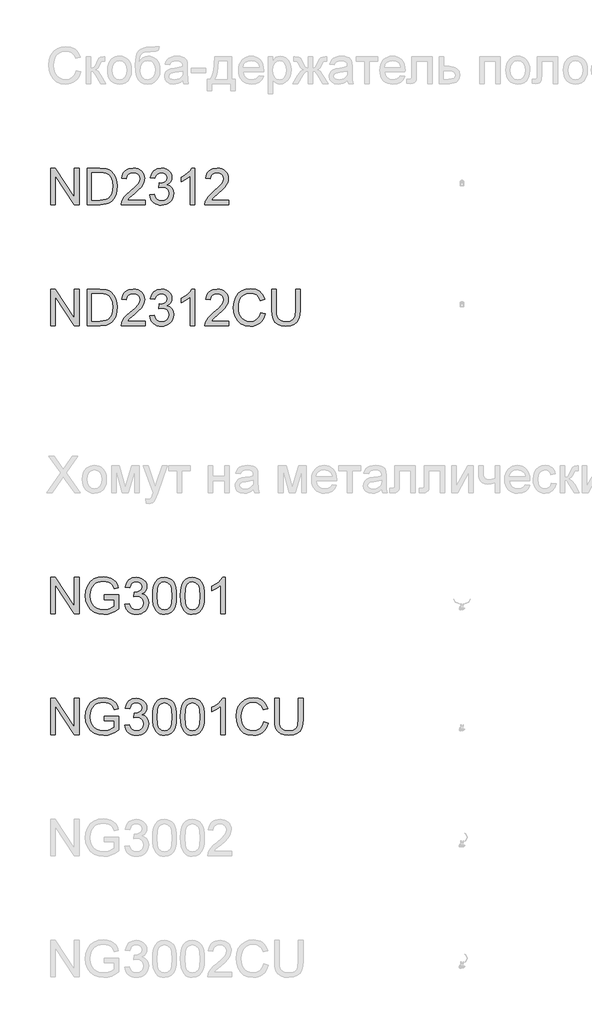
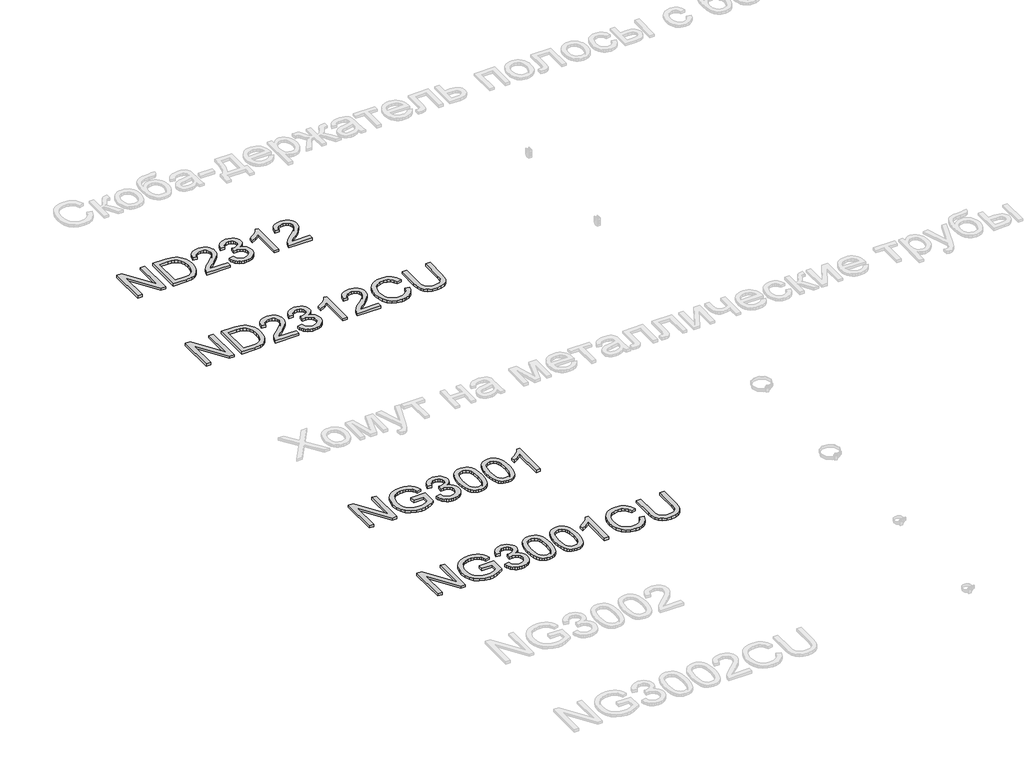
# One storey, part 104 of 124: 4 proxies.
"""IFC4 building model written with IfcOpenShell, lengths in millimetres."""

from ifc_helpers import new_model, si_unit, origin, origin_with_axes, place, context, project, spatial, polyline, outline, extrude, element, save

model = new_model("IFC4")

# Units and contexts
model_context = context("Model", 3, world=origin())
ifc_project = project(units=[si_unit("LENGTHUNIT", "METRE", prefix="MILLI")], contexts=[model_context])

# Site, building, storey
site = spatial("IfcSite", under=ifc_project)
building = spatial("IfcBuilding", under=site)
storey = spatial("IfcBuildingStorey", under=building, Name="Этаж 01", Elevation=0.0)

# Proxies
placement = place(None, origin())
element("IfcBuildingElementProxy", 1, Name="300", ObjectType="300", at=placement, inside=storey, context=model_context, shape_type="SweptSolid", body=[
    extrude(outline(polyline([(34161.4897718, -25050.5404686), (34161.4897718, -24749.1715382), (34201.8096385, -24749.1715382), (34359.2631324, -24987.9269531), (34359.2631324, -24749.1715382), (34396.9342487, -24749.1715382), (34396.9342487, -25050.5404686), (34356.6143821, -25050.5404686), (34199.1608881, -24811.7114774), (34199.1608881, -25050.5404686), (34161.4897718, -25050.5404686)])), origin_with_axes(), (0.0, 0.0, 1.0), 20.0),
    extrude(outline(polyline([(34462.8587023, -25050.5404686), (34462.8587023, -24749.1715382), (34566.8221541, -24749.1715382), (34620.6065018, -24753.5125457), (34644.6291961, -24761.8818611), (34664.899494, -24775.0704306), (34685.7400091, -24798.0262671), (34700.5840476, -24826.57391), (34709.4683977, -24860.1615361), (34712.4298478, -24898.2373226), (34710.4248909, -24930.5833471), (34704.4100203, -24959.0482164), (34695.2497586, -24983.2824429), (34683.8086286, -25002.9365385), (34670.6384532, -25018.4519616), (34656.2910553, -25030.2701707), (34639.819139, -25039.0349592), (34620.275408, -25045.3901207), (34571.8253492, -25050.5404686), (34462.8587023, -25050.5404686)]), holes=[polyline([(34500.5298186, -25012.8693523), (34567.1900361, -25012.8693523), (34594.7627916, -25011.508189), (34615.6768831, -25007.4246988), (34631.4590207, -25000.8580052), (34643.6359147, -24992.0472314), (34656.7233167, -24975.740862), (34666.554963, -24954.6336325), (34672.7077894, -24928.6335725), (34674.7587315, -24897.6487114), (34670.7396207, -24856.5930808), (34658.6822883, -24826.2796044), (34640.8676027, -24805.4574835), (34619.5764322, -24792.8759192), (34597.9081827, -24788.3509707), (34566.1599665, -24786.8426545), (34500.5298186, -24786.8426545), (34500.5298186, -25012.8693523)])]), origin_with_axes(), (0.0, 0.0, 1.0), 20.0),
    extrude(outline(polyline([(34943.1654352, -25012.8693523), (34943.1654352, -25050.5404686), (34745.3920746, -25050.5404686), (34749.4387765, -25024.5679998), (34758.7277969, -25004.2701107), (34772.3210366, -24984.5792269), (34791.9843293, -24963.9686381), (34819.4835084, -24940.9116341), (34860.1344689, -24904.8040162), (34884.5250452, -24878.1509657), (34896.7203333, -24856.5195044), (34900.7854293, -24835.4766543), (34896.9502595, -24816.613505), (34885.4447501, -24800.9325349), (34867.7588232, -24790.3651246), (34845.3824009, -24786.8426545), (34821.8839384, -24790.2823512), (34803.6277944, -24800.6014411), (34791.8463735, -24816.990584), (34787.7720804, -24838.6404394), (34750.1009641, -24833.9315499), (34759.2336346, -24797.4928383), (34767.7799932, -24782.9569009), (34778.9797007, -24770.8765759), (34792.5752397, -24761.3806219), (34808.3090928, -24754.5977976), (34846.1917413, -24749.1715382), (34866.381565, -24750.6798544), (34884.3503012, -24755.2048029), (34900.0979499, -24762.7463838), (34913.624511, -24773.3045971), (34924.4885261, -24786.0976935), (34932.248537, -24800.3439237), (34936.9045435, -24816.0432879), (34938.4565456, -24833.1957859), (34936.7826826, -24851.2128066), (34931.7610933, -24868.9171276), (34922.849152, -24886.9249513), (34909.5042326, -24905.8524799), (34888.2314563, -24928.4496315), (34855.5359439, -24957.4663239), (34812.1994449, -24993.7027004), (34795.2032967, -25012.8693523), (34943.1654352, -25012.8693523)])), origin_with_axes(), (0.0, 0.0, 1.0), 20.0),
    extrude(outline(polyline([(34980.8365515, -24970.4893465), (35018.5076678, -24965.7804569), (35026.9413625, -24989.4536633), (35039.2930005, -25005.438136), (35056.169587, -25014.5432154), (35078.1781274, -25017.5782419), (35104.0034435, -25013.4027812), (35123.9426476, -25000.8763993), (35136.6897587, -24982.1879939), (35140.9387958, -24959.526463), (35136.7265469, -24938.0145634), (35124.0898004, -24920.5677597), (35104.9599367, -24909.007068), (35081.2683362, -24905.1535041), (35054.8544089, -24909.2737825), (35059.0482637, -24871.6026662), (35065.0815284, -24872.0441246), (35087.6510888, -24869.3401919), (35107.8294162, -24861.2283939), (35122.0664494, -24847.5063955), (35126.8121272, -24827.9718616), (35123.3724305, -24811.7022803), (35113.0533406, -24798.5045137), (35097.3079912, -24789.7581193), (35077.5895162, -24786.8426545), (35057.8342531, -24789.7857105), (35041.6842335, -24798.6148783), (35029.8936155, -24813.3301581), (35023.2165573, -24833.9315499), (34985.545441, -24829.2226603), (34996.6370832, -24795.3959109), (35016.3739522, -24770.1408119), (35043.3764907, -24754.4138566), (35076.265141, -24749.1715382), (35099.9475445, -24751.7559092), (35121.6985674, -24759.5090223), (35140.0374849, -24771.7410986), (35153.4835718, -24787.7623595), (35161.7333256, -24806.2208386), (35164.4832435, -24825.7645696), (35161.8712813, -24843.9747283), (35154.0353948, -24860.4926299), (35141.0859486, -24874.5641162), (35123.1333072, -24885.4350292), (35146.7145431, -24894.9631729), (35164.1889379, -24911.1867689), (35175.0046685, -24933.2229004), (35178.6099121, -24960.1886506), (35176.8072903, -24979.3001203), (35171.399425, -24996.9032737), (35162.3863161, -25012.998111), (35149.7679637, -25027.5846321), (35134.3950948, -25039.6879498), (35117.1184366, -25048.3331767), (35097.9379891, -25053.5203128), (35076.8537522, -25055.2493582), (35057.7974649, -25053.7732317), (35040.4334347, -25049.3448522), (35024.7616617, -25041.9642196), (35010.7821459, -25031.6313341), (34999.0605058, -25018.9532008), (34990.1623601, -25004.5368251), (34984.0877086, -24988.382207), (34980.8365515, -24970.4893465)])), origin_with_axes(), (0.0, 0.0, 1.0), 20.0),
    extrude(outline(polyline([(35352.838825, -25050.5404686), (35315.1677087, -25050.5404686), (35315.1677087, -24815.6846029), (35279.4831552, -24841.1052488), (35239.8254761, -24860.1247479), (35239.8254761, -24824.5137708), (35269.4123856, -24808.4189335), (35295.0445636, -24789.2706757), (35315.2504822, -24768.9084072), (35328.5586133, -24749.1715382), (35352.838825, -24749.1715382), (35352.838825, -25050.5404686)])), origin_with_axes(), (0.0, 0.0, 1.0), 20.0),
    extrude(outline(polyline([(35635.3721973, -25012.8693523), (35635.3721973, -25050.5404686), (35437.5988367, -25050.5404686), (35441.6455386, -25024.5679998), (35450.934559, -25004.2701107), (35464.5277987, -24984.5792269), (35484.1910914, -24963.9686381), (35511.6902705, -24940.9116341), (35552.341231, -24904.8040162), (35576.7318073, -24878.1509657), (35588.9270954, -24856.5195044), (35592.9921915, -24835.4766543), (35589.1570217, -24816.613505), (35577.6515123, -24800.9325349), (35559.9655853, -24790.3651246), (35537.589163, -24786.8426545), (35514.0907005, -24790.2823512), (35495.8345565, -24800.6014411), (35484.0531356, -24816.990584), (35479.9788425, -24838.6404394), (35442.3077262, -24833.9315499), (35451.4403968, -24797.4928383), (35459.9867554, -24782.9569009), (35471.1864629, -24770.8765759), (35484.7820018, -24761.3806219), (35500.5158549, -24754.5977976), (35538.3985034, -24749.1715382), (35558.5883271, -24750.6798544), (35576.5570633, -24755.2048029), (35592.304712, -24762.7463838), (35605.8312731, -24773.3045971), (35616.6952883, -24786.0976935), (35624.4552991, -24800.3439237), (35629.1113056, -24816.0432879), (35630.6633078, -24833.1957859), (35628.9894447, -24851.2128066), (35623.9678555, -24868.9171276), (35615.0559141, -24886.9249513), (35601.7109947, -24905.8524799), (35580.4382184, -24928.4496315), (35547.7427061, -24957.4663239), (35504.406207, -24993.7027004), (35487.4100588, -25012.8693523), (35635.3721973, -25012.8693523)])), origin_with_axes(), (0.0, 0.0, 1.0), 20.0),
])
element("IfcBuildingElementProxy", 2, Name="300", ObjectType="300", at=placement, inside=storey, context=model_context, shape_type="SweptSolid", body=[
    extrude(outline(polyline([(34161.4897718, -26050.5404686), (34161.4897718, -25749.1715382), (34201.8096385, -25749.1715382), (34359.2631324, -25987.9269531), (34359.2631324, -25749.1715382), (34396.9342487, -25749.1715382), (34396.9342487, -26050.5404686), (34356.6143821, -26050.5404686), (34199.1608881, -25811.7114774), (34199.1608881, -26050.5404686), (34161.4897718, -26050.5404686)])), origin_with_axes(), (0.0, 0.0, 1.0), 20.0),
    extrude(outline(polyline([(34462.8587023, -26050.5404686), (34462.8587023, -25749.1715382), (34566.8221541, -25749.1715382), (34620.6065018, -25753.5125457), (34644.6291961, -25761.8818611), (34664.899494, -25775.0704306), (34685.7400091, -25798.0262671), (34700.5840476, -25826.57391), (34709.4683977, -25860.1615361), (34712.4298478, -25898.2373226), (34710.4248909, -25930.5833471), (34704.4100203, -25959.0482164), (34695.2497586, -25983.2824429), (34683.8086286, -26002.9365385), (34670.6384532, -26018.4519616), (34656.2910553, -26030.2701707), (34639.819139, -26039.0349592), (34620.275408, -26045.3901207), (34571.8253492, -26050.5404686), (34462.8587023, -26050.5404686)]), holes=[polyline([(34500.5298186, -26012.8693523), (34567.1900361, -26012.8693523), (34594.7627916, -26011.508189), (34615.6768831, -26007.4246988), (34631.4590207, -26000.8580052), (34643.6359147, -25992.0472314), (34656.7233167, -25975.740862), (34666.554963, -25954.6336325), (34672.7077894, -25928.6335725), (34674.7587315, -25897.6487114), (34670.7396207, -25856.5930808), (34658.6822883, -25826.2796044), (34640.8676027, -25805.4574835), (34619.5764322, -25792.8759192), (34597.9081827, -25788.3509707), (34566.1599665, -25786.8426545), (34500.5298186, -25786.8426545), (34500.5298186, -26012.8693523)])]), origin_with_axes(), (0.0, 0.0, 1.0), 20.0),
    extrude(outline(polyline([(34943.1654352, -26012.8693523), (34943.1654352, -26050.5404686), (34745.3920746, -26050.5404686), (34749.4387765, -26024.5679998), (34758.7277969, -26004.2701107), (34772.3210366, -25984.5792269), (34791.9843293, -25963.9686381), (34819.4835084, -25940.9116341), (34860.1344689, -25904.8040162), (34884.5250452, -25878.1509657), (34896.7203333, -25856.5195044), (34900.7854293, -25835.4766543), (34896.9502595, -25816.613505), (34885.4447501, -25800.9325349), (34867.7588232, -25790.3651246), (34845.3824009, -25786.8426545), (34821.8839384, -25790.2823512), (34803.6277944, -25800.6014411), (34791.8463735, -25816.990584), (34787.7720804, -25838.6404394), (34750.1009641, -25833.9315499), (34759.2336346, -25797.4928383), (34767.7799932, -25782.9569009), (34778.9797007, -25770.8765759), (34792.5752397, -25761.3806219), (34808.3090928, -25754.5977976), (34846.1917413, -25749.1715382), (34866.381565, -25750.6798544), (34884.3503012, -25755.2048029), (34900.0979499, -25762.7463838), (34913.624511, -25773.3045971), (34924.4885261, -25786.0976935), (34932.248537, -25800.3439237), (34936.9045435, -25816.0432879), (34938.4565456, -25833.1957859), (34936.7826826, -25851.2128066), (34931.7610933, -25868.9171276), (34922.849152, -25886.9249513), (34909.5042326, -25905.8524799), (34888.2314563, -25928.4496315), (34855.5359439, -25957.4663239), (34812.1994449, -25993.7027004), (34795.2032967, -26012.8693523), (34943.1654352, -26012.8693523)])), origin_with_axes(), (0.0, 0.0, 1.0), 20.0),
    extrude(outline(polyline([(34980.8365515, -25970.4893465), (35018.5076678, -25965.7804569), (35026.9413625, -25989.4536633), (35039.2930005, -26005.438136), (35056.169587, -26014.5432154), (35078.1781274, -26017.5782419), (35104.0034435, -26013.4027812), (35123.9426476, -26000.8763993), (35136.6897587, -25982.1879939), (35140.9387958, -25959.526463), (35136.7265469, -25938.0145634), (35124.0898004, -25920.5677597), (35104.9599367, -25909.007068), (35081.2683362, -25905.1535041), (35054.8544089, -25909.2737825), (35059.0482637, -25871.6026662), (35065.0815284, -25872.0441246), (35087.6510888, -25869.3401919), (35107.8294162, -25861.2283939), (35122.0664494, -25847.5063955), (35126.8121272, -25827.9718616), (35123.3724305, -25811.7022803), (35113.0533406, -25798.5045137), (35097.3079912, -25789.7581193), (35077.5895162, -25786.8426545), (35057.8342531, -25789.7857105), (35041.6842335, -25798.6148783), (35029.8936155, -25813.3301581), (35023.2165573, -25833.9315499), (34985.545441, -25829.2226603), (34996.6370832, -25795.3959109), (35016.3739522, -25770.1408119), (35043.3764907, -25754.4138566), (35076.265141, -25749.1715382), (35099.9475445, -25751.7559092), (35121.6985674, -25759.5090223), (35140.0374849, -25771.7410986), (35153.4835718, -25787.7623595), (35161.7333256, -25806.2208386), (35164.4832435, -25825.7645696), (35161.8712813, -25843.9747283), (35154.0353948, -25860.4926299), (35141.0859486, -25874.5641162), (35123.1333072, -25885.4350292), (35146.7145431, -25894.9631729), (35164.1889379, -25911.1867689), (35175.0046685, -25933.2229004), (35178.6099121, -25960.1886506), (35176.8072903, -25979.3001203), (35171.399425, -25996.9032737), (35162.3863161, -26012.998111), (35149.7679637, -26027.5846321), (35134.3950948, -26039.6879498), (35117.1184366, -26048.3331767), (35097.9379891, -26053.5203128), (35076.8537522, -26055.2493582), (35057.7974649, -26053.7732317), (35040.4334347, -26049.3448522), (35024.7616617, -26041.9642196), (35010.7821459, -26031.6313341), (34999.0605058, -26018.9532008), (34990.1623601, -26004.5368251), (34984.0877086, -25988.382207), (34980.8365515, -25970.4893465)])), origin_with_axes(), (0.0, 0.0, 1.0), 20.0),
    extrude(outline(polyline([(35352.838825, -26050.5404686), (35315.1677087, -26050.5404686), (35315.1677087, -25815.6846029), (35279.4831552, -25841.1052488), (35239.8254761, -25860.1247479), (35239.8254761, -25824.5137708), (35269.4123856, -25808.4189335), (35295.0445636, -25789.2706757), (35315.2504822, -25768.9084072), (35328.5586133, -25749.1715382), (35352.838825, -25749.1715382), (35352.838825, -26050.5404686)])), origin_with_axes(), (0.0, 0.0, 1.0), 20.0),
    extrude(outline(polyline([(35635.3721973, -26012.8693523), (35635.3721973, -26050.5404686), (35437.5988367, -26050.5404686), (35441.6455386, -26024.5679998), (35450.934559, -26004.2701107), (35464.5277987, -25984.5792269), (35484.1910914, -25963.9686381), (35511.6902705, -25940.9116341), (35552.341231, -25904.8040162), (35576.7318073, -25878.1509657), (35588.9270954, -25856.5195044), (35592.9921915, -25835.4766543), (35589.1570217, -25816.613505), (35577.6515123, -25800.9325349), (35559.9655853, -25790.3651246), (35537.589163, -25786.8426545), (35514.0907005, -25790.2823512), (35495.8345565, -25800.6014411), (35484.0531356, -25816.990584), (35479.9788425, -25838.6404394), (35442.3077262, -25833.9315499), (35451.4403968, -25797.4928383), (35459.9867554, -25782.9569009), (35471.1864629, -25770.8765759), (35484.7820018, -25761.3806219), (35500.5158549, -25754.5977976), (35538.3985034, -25749.1715382), (35558.5883271, -25750.6798544), (35576.5570633, -25755.2048029), (35592.304712, -25762.7463838), (35605.8312731, -25773.3045971), (35616.6952883, -25786.0976935), (35624.4552991, -25800.3439237), (35629.1113056, -25816.0432879), (35630.6633078, -25833.1957859), (35628.9894447, -25851.2128066), (35623.9678555, -25868.9171276), (35615.0559141, -25886.9249513), (35601.7109947, -25905.8524799), (35580.4382184, -25928.4496315), (35547.7427061, -25957.4663239), (35504.406207, -25993.7027004), (35487.4100588, -26012.8693523), (35635.3721973, -26012.8693523)])), origin_with_axes(), (0.0, 0.0, 1.0), 20.0),
    extrude(outline(polyline([(35899.0700114, -25943.4132316), (35936.7411278, -25953.1253163), (35929.2869188, -25976.5525016), (35919.3587035, -25997.0228354), (35906.9564817, -26014.5363176), (35892.0802535, -26029.0929483), (35875.0657113, -26040.5363776), (35856.2485472, -26048.7102557), (35835.6287614, -26053.6145826), (35813.2063538, -26055.2493582), (35769.5111698, -26050.3013453), (35734.8107006, -26035.4573068), (35708.2128324, -26011.2322775), (35688.8254512, -25978.141292), (35676.988848, -25939.237771), (35673.0433136, -25897.575135), (35677.5038828, -25853.6316307), (35690.8855904, -25815.6846029), (35712.4894605, -25784.9388652), (35741.6165175, -25762.599231), (35776.1606369, -25748.9967942), (35814.0156942, -25744.4626487), (35855.3196452, -25750.3303665), (35873.2883814, -25757.6650138), (35889.4682914, -25767.9335199), (35903.5926607, -25780.8645721), (35915.394775, -25796.1868572), (35932.0322382, -25834.0051263), (35894.3611219, -25842.981447), (35881.3013111, -25815.509859), (35863.4590343, -25796.6651038), (35840.6135624, -25785.7665997), (35812.5441662, -25782.133765), (35780.1889447, -25786.1620728), (35753.6094706, -25798.2469963), (35733.4403402, -25817.1193427), (35720.31615, -25841.509919), (35713.1148599, -25869.0826745), (35710.7144299, -25897.5015586), (35713.5563183, -25932.3031954), (35722.0819836, -25962.3959426), (35736.6133224, -25986.630169), (35757.4722315, -26003.8562435), (35782.4790101, -26014.1477423), (35809.4539574, -26017.5782419), (35840.898671, -26012.9061405), (35867.1010661, -25998.8898365), (35886.8839204, -25975.6764826), (35899.0700114, -25943.4132316)])), origin_with_axes(), (0.0, 0.0, 1.0), 20.0),
    extrude(outline(polyline([(36186.3122733, -25749.1715382), (36223.9833896, -25749.1715382), (36223.9833896, -25923.0325691), (36221.4266097, -25963.7479089), (36213.7562701, -25995.100652), (36199.4272664, -26019.2888931), (36176.8944942, -26038.5107274), (36146.1027712, -26051.0647005), (36106.9969151, -26055.2493582), (36068.7463847, -26051.6073264), (36038.1661938, -26040.6812312), (36015.2471455, -26022.8481515), (35999.9800427, -25998.4851663), (35991.3991952, -25965.8080481), (35988.5389127, -25923.0325691), (35988.5389127, -25749.1715382), (36026.210029, -25749.1715382), (36026.210029, -25921.7081939), (36028.0678331, -25955.5625345), (36033.6412453, -25979.1345734), (36043.7396061, -25995.4593369), (36059.1722557, -26007.5718516), (36079.2954009, -26015.0766443), (36103.465248, -26017.5782419), (36141.7801578, -26012.630229), (36156.1229571, -26006.445213), (36167.2559859, -25997.7861905), (36175.5931116, -25985.6092965), (36181.5482014, -25968.8706657), (36186.3122733, -25921.7081939), (36186.3122733, -25749.1715382)])), origin_with_axes(), (0.0, 0.0, 1.0), 20.0),
])
element("IfcBuildingElementProxy", 3, Name="300", ObjectType="300", at=placement, inside=storey, context=model_context, shape_type="SweptSolid", body=[
    extrude(outline(polyline([(34161.4897718, -28431.446857), (34161.4897718, -28130.0779265), (34201.8096385, -28130.0779265), (34359.2631324, -28368.8333414), (34359.2631324, -28130.0779265), (34396.9342487, -28130.0779265), (34396.9342487, -28431.446857), (34356.6143821, -28431.446857), (34199.1608881, -28192.6178657), (34199.1608881, -28431.446857), (34161.4897718, -28431.446857)])), origin_with_axes(), (0.0, 0.0, 1.0), 20.0),
    extrude(outline(polyline([(34604.1253884, -28313.7246185), (34604.1253884, -28276.0535022), (34726.5565164, -28276.0535022), (34726.5565164, -28388.6989691), (34696.8040601, -28409.3923314), (34666.1135046, -28424.2363699), (34634.5584265, -28433.1759024), (34602.2124021, -28436.1557465), (34559.9519579, -28431.4192658), (34521.7566097, -28417.2098238), (34490.0267876, -28394.024061), (34467.1629216, -28362.3586183), (34453.3397557, -28324.3748023), (34448.7320337, -28282.2339197), (34453.3213616, -28239.7895345), (34467.0893452, -28200.3065994), (34489.4657676, -28167.1880228), (34519.8804115, -28143.8367132), (34556.9261284, -28129.985956), (34599.1957697, -28125.369037), (34630.226616, -28128.0453785), (34658.1304653, -28136.0744031), (34681.6289278, -28148.8766965), (34699.4436134, -28165.8728447), (34712.6229859, -28187.881385), (34722.2155089, -28215.720855), (34687.4874485, -28225.5065161), (34679.7343355, -28205.6500854), (34670.3073594, -28190.6680911), (34657.8361597, -28179.3741139), (34640.9503761, -28170.5817342), (34620.818034, -28164.9255485), (34598.6071585, -28163.0401533), (34572.6070985, -28165.0727013), (34550.3778289, -28171.1703454), (34532.0021233, -28180.5697304), (34517.562755, -28192.5075011), (34498.1753738, -28221.5333905), (34489.3462059, -28249.9706688), (34486.40315, -28280.6888154), (34489.9440142, -28316.7136597), (34500.5666068, -28346.3557515), (34517.9490311, -28369.4035585), (34541.7693902, -28385.6455486), (34569.6456484, -28395.2748598), (34599.1957697, -28398.4846302), (34625.2878002, -28396.0658061), (34650.7360372, -28388.8093337), (34672.8365481, -28378.8121405), (34688.8854001, -28368.1711538), (34688.8854001, -28313.7246185), (34604.1253884, -28313.7246185)])), origin_with_axes(), (0.0, 0.0, 1.0), 20.0),
    extrude(outline(polyline([(34773.6454118, -28351.3957348), (34811.3165281, -28346.6868453), (34819.7502228, -28370.3600517), (34832.1018608, -28386.3445244), (34848.9784474, -28395.4496038), (34870.9869877, -28398.4846302), (34896.8123038, -28394.3091696), (34916.7515079, -28381.7827876), (34929.4986191, -28363.0943823), (34933.7476561, -28340.4328514), (34929.5354073, -28318.9209517), (34916.8986607, -28301.4741481), (34897.768797, -28289.9134564), (34874.0771965, -28286.0598925), (34847.6632692, -28290.1801708), (34851.857124, -28252.5090545), (34857.8903887, -28252.9505129), (34880.4599491, -28250.2465803), (34900.6382765, -28242.1347823), (34914.8753098, -28228.4127838), (34919.6209875, -28208.8782499), (34916.1812908, -28192.6086687), (34905.8622009, -28179.4109021), (34890.1168515, -28170.6645077), (34870.3983765, -28167.7490428), (34850.6431134, -28170.6920988), (34834.4930938, -28179.5212667), (34822.7024759, -28194.2365465), (34816.0254176, -28214.8379382), (34778.3543013, -28210.1290487), (34789.4459435, -28176.3022992), (34809.1828125, -28151.0472003), (34836.185351, -28135.320245), (34869.0740014, -28130.0779265), (34892.7564048, -28132.6622975), (34914.5074278, -28140.4154106), (34932.8463452, -28152.6474869), (34946.2924321, -28168.6687478), (34954.5421859, -28187.1272269), (34957.2921038, -28206.6709579), (34954.6801416, -28224.8811167), (34946.8442551, -28241.3990183), (34933.8948089, -28255.4705046), (34915.9421675, -28266.3414175), (34939.5234034, -28275.8695612), (34956.9977982, -28292.0931572), (34967.8135289, -28314.1292887), (34971.4187724, -28341.095039), (34969.6161506, -28360.2065086), (34964.2082853, -28377.8096621), (34955.1951764, -28393.9044994), (34942.576824, -28408.4910205), (34927.2039551, -28420.5943381), (34909.9272969, -28429.239565), (34890.7468494, -28434.4267011), (34869.6626125, -28436.1557465), (34850.6063252, -28434.67962), (34833.242295, -28430.2512405), (34817.570522, -28422.870608), (34803.5910062, -28412.5377224), (34791.8693661, -28399.8595892), (34782.9712204, -28385.4432135), (34776.8965689, -28369.2885954), (34773.6454118, -28351.3957348)])), origin_with_axes(), (0.0, 0.0, 1.0), 20.0),
    extrude(outline(polyline([(35004.3809992, -28283.1904129), (35007.1493112, -28234.9518863), (35015.4542472, -28196.4806267), (35029.2130339, -28167.1880228), (35048.3428976, -28146.4854635), (35072.9817942, -28134.1798108), (35103.2676795, -28130.0779265), (35126.4810334, -28132.5059477), (35147.2663661, -28139.7900112), (35164.6487904, -28151.6450085), (35177.6534189, -28167.785831), (35187.4758682, -28188.0745231), (35195.3117547, -28212.3731289), (35200.4437085, -28243.2292312), (35202.1543598, -28283.1904129), (35199.4136389, -28331.153028), (35191.1914763, -28369.5323172), (35177.5154632, -28398.8525122), (35158.4131906, -28419.6378449), (35133.7191116, -28432.0262711), (35103.2676795, -28436.1557465), (35082.519135, -28434.3623218), (35064.1250352, -28428.9820476), (35048.0853802, -28420.014924), (35034.40017, -28407.4609509), (35021.2667828, -28384.7672303), (35011.8857919, -28356.4909005), (35006.2571974, -28322.6319613), (35004.3809992, -28283.1904129)]), holes=[polyline([(35042.0521155, -28283.1168365), (35046.4666994, -28342.3734289), (35051.9849294, -28362.6414276), (35059.7104513, -28376.6692279), (35079.4289262, -28393.0307796), (35103.2676795, -28398.4846302), (35127.1064328, -28393.0123855), (35146.8249077, -28376.5956515), (35154.5504296, -28362.5448585), (35160.0686595, -28342.2814584), (35164.4832435, -28283.1168365), (35160.2158123, -28225.1938164), (35154.8815234, -28204.9924963), (35147.4135189, -28190.6313029), (35127.7318322, -28173.4696079), (35102.8262211, -28167.7490428), (35079.2449852, -28172.7890262), (35060.2990624, -28187.9089762), (35052.3160232, -28203.543961), (35046.6138522, -28224.6235993), (35042.0521155, -28283.1168365)])]), origin_with_axes(), (0.0, 0.0, 1.0), 20.0),
    extrude(outline(polyline([(35235.1165866, -28283.1904129), (35237.8848986, -28234.9518863), (35246.1898346, -28196.4806267), (35259.9486212, -28167.1880228), (35279.078485, -28146.4854635), (35303.7173816, -28134.1798108), (35334.0032669, -28130.0779265), (35357.2166208, -28132.5059477), (35378.0019535, -28139.7900112), (35395.3843778, -28151.6450085), (35408.3890063, -28167.785831), (35418.2114556, -28188.0745231), (35426.0473421, -28212.3731289), (35431.1792959, -28243.2292312), (35432.8899472, -28283.1904129), (35430.1492263, -28331.153028), (35421.9270637, -28369.5323172), (35408.2510505, -28398.8525122), (35389.1487779, -28419.6378449), (35364.454699, -28432.0262711), (35334.0032669, -28436.1557465), (35313.2547223, -28434.3623218), (35294.8606226, -28428.9820476), (35278.8209676, -28420.014924), (35265.1357574, -28407.4609509), (35252.0023701, -28384.7672303), (35242.6213793, -28356.4909005), (35236.9927847, -28322.6319613), (35235.1165866, -28283.1904129)]), holes=[polyline([(35272.7877029, -28283.1168365), (35277.2022868, -28342.3734289), (35282.7205167, -28362.6414276), (35290.4460386, -28376.6692279), (35310.1645136, -28393.0307796), (35334.0032669, -28398.4846302), (35357.8420201, -28393.0123855), (35377.5604951, -28376.5956515), (35385.286017, -28362.5448585), (35390.8042469, -28342.2814584), (35395.2188309, -28283.1168365), (35390.9513997, -28225.1938164), (35385.6171108, -28204.9924963), (35378.1491063, -28190.6313029), (35358.4674195, -28173.4696079), (35333.5618085, -28167.7490428), (35309.9805726, -28172.7890262), (35291.0346498, -28187.9089762), (35283.0516105, -28203.543961), (35277.3494396, -28224.6235993), (35272.7877029, -28283.1168365)])]), origin_with_axes(), (0.0, 0.0, 1.0), 20.0),
    extrude(outline(polyline([(35607.1188601, -28431.446857), (35569.4477438, -28431.446857), (35569.4477438, -28196.5909913), (35533.7631902, -28222.0116371), (35494.1055112, -28241.0311363), (35494.1055112, -28205.4201591), (35523.6924206, -28189.3253219), (35549.3245986, -28170.177064), (35569.5305172, -28149.8147956), (35582.8386484, -28130.0779265), (35607.1188601, -28130.0779265), (35607.1188601, -28431.446857)])), origin_with_axes(), (0.0, 0.0, 1.0), 20.0),
])
element("IfcBuildingElementProxy", 4, Name="300", ObjectType="300", at=placement, inside=storey, context=model_context, shape_type="SweptSolid", body=[
    extrude(outline(polyline([(34161.4897718, -29431.446857), (34161.4897718, -29130.0779265), (34201.8096385, -29130.0779265), (34359.2631324, -29368.8333414), (34359.2631324, -29130.0779265), (34396.9342487, -29130.0779265), (34396.9342487, -29431.446857), (34356.6143821, -29431.446857), (34199.1608881, -29192.6178657), (34199.1608881, -29431.446857), (34161.4897718, -29431.446857)])), origin_with_axes(), (0.0, 0.0, 1.0), 20.0),
    extrude(outline(polyline([(34604.1253884, -29313.7246185), (34604.1253884, -29276.0535022), (34726.5565164, -29276.0535022), (34726.5565164, -29388.6989691), (34696.8040601, -29409.3923314), (34666.1135046, -29424.2363699), (34634.5584265, -29433.1759024), (34602.2124021, -29436.1557465), (34559.9519579, -29431.4192658), (34521.7566097, -29417.2098238), (34490.0267876, -29394.024061), (34467.1629216, -29362.3586183), (34453.3397557, -29324.3748023), (34448.7320337, -29282.2339197), (34453.3213616, -29239.7895345), (34467.0893452, -29200.3065994), (34489.4657676, -29167.1880228), (34519.8804115, -29143.8367132), (34556.9261284, -29129.985956), (34599.1957697, -29125.369037), (34630.226616, -29128.0453785), (34658.1304653, -29136.0744031), (34681.6289278, -29148.8766965), (34699.4436134, -29165.8728447), (34712.6229859, -29187.881385), (34722.2155089, -29215.720855), (34687.4874485, -29225.5065161), (34679.7343355, -29205.6500854), (34670.3073594, -29190.6680911), (34657.8361597, -29179.3741139), (34640.9503761, -29170.5817342), (34620.818034, -29164.9255485), (34598.6071585, -29163.0401533), (34572.6070985, -29165.0727013), (34550.3778289, -29171.1703454), (34532.0021233, -29180.5697304), (34517.562755, -29192.5075011), (34498.1753738, -29221.5333905), (34489.3462059, -29249.9706688), (34486.40315, -29280.6888154), (34489.9440142, -29316.7136597), (34500.5666068, -29346.3557515), (34517.9490311, -29369.4035585), (34541.7693902, -29385.6455486), (34569.6456484, -29395.2748598), (34599.1957697, -29398.4846302), (34625.2878002, -29396.0658061), (34650.7360372, -29388.8093337), (34672.8365481, -29378.8121405), (34688.8854001, -29368.1711538), (34688.8854001, -29313.7246185), (34604.1253884, -29313.7246185)])), origin_with_axes(), (0.0, 0.0, 1.0), 20.0),
    extrude(outline(polyline([(34773.6454118, -29351.3957348), (34811.3165281, -29346.6868453), (34819.7502228, -29370.3600517), (34832.1018608, -29386.3445244), (34848.9784474, -29395.4496038), (34870.9869877, -29398.4846302), (34896.8123038, -29394.3091696), (34916.7515079, -29381.7827876), (34929.4986191, -29363.0943823), (34933.7476561, -29340.4328514), (34929.5354073, -29318.9209517), (34916.8986607, -29301.4741481), (34897.768797, -29289.9134564), (34874.0771965, -29286.0598925), (34847.6632692, -29290.1801708), (34851.857124, -29252.5090545), (34857.8903887, -29252.9505129), (34880.4599491, -29250.2465803), (34900.6382765, -29242.1347823), (34914.8753098, -29228.4127838), (34919.6209875, -29208.8782499), (34916.1812908, -29192.6086687), (34905.8622009, -29179.4109021), (34890.1168515, -29170.6645077), (34870.3983765, -29167.7490428), (34850.6431134, -29170.6920988), (34834.4930938, -29179.5212667), (34822.7024759, -29194.2365465), (34816.0254176, -29214.8379382), (34778.3543013, -29210.1290487), (34789.4459435, -29176.3022992), (34809.1828125, -29151.0472003), (34836.185351, -29135.320245), (34869.0740014, -29130.0779265), (34892.7564048, -29132.6622975), (34914.5074278, -29140.4154106), (34932.8463452, -29152.6474869), (34946.2924321, -29168.6687478), (34954.5421859, -29187.1272269), (34957.2921038, -29206.6709579), (34954.6801416, -29224.8811167), (34946.8442551, -29241.3990183), (34933.8948089, -29255.4705046), (34915.9421675, -29266.3414175), (34939.5234034, -29275.8695612), (34956.9977982, -29292.0931572), (34967.8135289, -29314.1292887), (34971.4187724, -29341.095039), (34969.6161506, -29360.2065086), (34964.2082853, -29377.8096621), (34955.1951764, -29393.9044994), (34942.576824, -29408.4910205), (34927.2039551, -29420.5943381), (34909.9272969, -29429.239565), (34890.7468494, -29434.4267011), (34869.6626125, -29436.1557465), (34850.6063252, -29434.67962), (34833.242295, -29430.2512405), (34817.570522, -29422.870608), (34803.5910062, -29412.5377224), (34791.8693661, -29399.8595892), (34782.9712204, -29385.4432135), (34776.8965689, -29369.2885954), (34773.6454118, -29351.3957348)])), origin_with_axes(), (0.0, 0.0, 1.0), 20.0),
    extrude(outline(polyline([(35004.3809992, -29283.1904129), (35007.1493112, -29234.9518863), (35015.4542472, -29196.4806267), (35029.2130339, -29167.1880228), (35048.3428976, -29146.4854635), (35072.9817942, -29134.1798108), (35103.2676795, -29130.0779265), (35126.4810334, -29132.5059477), (35147.2663661, -29139.7900112), (35164.6487904, -29151.6450085), (35177.6534189, -29167.785831), (35187.4758682, -29188.0745231), (35195.3117547, -29212.3731289), (35200.4437085, -29243.2292312), (35202.1543598, -29283.1904129), (35199.4136389, -29331.153028), (35191.1914763, -29369.5323172), (35177.5154632, -29398.8525122), (35158.4131906, -29419.6378449), (35133.7191116, -29432.0262711), (35103.2676795, -29436.1557465), (35082.519135, -29434.3623218), (35064.1250352, -29428.9820476), (35048.0853802, -29420.014924), (35034.40017, -29407.4609509), (35021.2667828, -29384.7672303), (35011.8857919, -29356.4909005), (35006.2571974, -29322.6319613), (35004.3809992, -29283.1904129)]), holes=[polyline([(35042.0521155, -29283.1168365), (35046.4666994, -29342.3734289), (35051.9849294, -29362.6414276), (35059.7104513, -29376.6692279), (35079.4289262, -29393.0307796), (35103.2676795, -29398.4846302), (35127.1064328, -29393.0123855), (35146.8249077, -29376.5956515), (35154.5504296, -29362.5448585), (35160.0686595, -29342.2814584), (35164.4832435, -29283.1168365), (35160.2158123, -29225.1938164), (35154.8815234, -29204.9924963), (35147.4135189, -29190.6313029), (35127.7318322, -29173.4696079), (35102.8262211, -29167.7490428), (35079.2449852, -29172.7890262), (35060.2990624, -29187.9089762), (35052.3160232, -29203.543961), (35046.6138522, -29224.6235993), (35042.0521155, -29283.1168365)])]), origin_with_axes(), (0.0, 0.0, 1.0), 20.0),
    extrude(outline(polyline([(35235.1165866, -29283.1904129), (35237.8848986, -29234.9518863), (35246.1898346, -29196.4806267), (35259.9486212, -29167.1880228), (35279.078485, -29146.4854635), (35303.7173816, -29134.1798108), (35334.0032669, -29130.0779265), (35357.2166208, -29132.5059477), (35378.0019535, -29139.7900112), (35395.3843778, -29151.6450085), (35408.3890063, -29167.785831), (35418.2114556, -29188.0745231), (35426.0473421, -29212.3731289), (35431.1792959, -29243.2292312), (35432.8899472, -29283.1904129), (35430.1492263, -29331.153028), (35421.9270637, -29369.5323172), (35408.2510505, -29398.8525122), (35389.1487779, -29419.6378449), (35364.454699, -29432.0262711), (35334.0032669, -29436.1557465), (35313.2547223, -29434.3623218), (35294.8606226, -29428.9820476), (35278.8209676, -29420.014924), (35265.1357574, -29407.4609509), (35252.0023701, -29384.7672303), (35242.6213793, -29356.4909005), (35236.9927847, -29322.6319613), (35235.1165866, -29283.1904129)]), holes=[polyline([(35272.7877029, -29283.1168365), (35277.2022868, -29342.3734289), (35282.7205167, -29362.6414276), (35290.4460386, -29376.6692279), (35310.1645136, -29393.0307796), (35334.0032669, -29398.4846302), (35357.8420201, -29393.0123855), (35377.5604951, -29376.5956515), (35385.286017, -29362.5448585), (35390.8042469, -29342.2814584), (35395.2188309, -29283.1168365), (35390.9513997, -29225.1938164), (35385.6171108, -29204.9924963), (35378.1491063, -29190.6313029), (35358.4674195, -29173.4696079), (35333.5618085, -29167.7490428), (35309.9805726, -29172.7890262), (35291.0346498, -29187.9089762), (35283.0516105, -29203.543961), (35277.3494396, -29224.6235993), (35272.7877029, -29283.1168365)])]), origin_with_axes(), (0.0, 0.0, 1.0), 20.0),
    extrude(outline(polyline([(35607.1188601, -29431.446857), (35569.4477438, -29431.446857), (35569.4477438, -29196.5909913), (35533.7631902, -29222.0116371), (35494.1055112, -29241.0311363), (35494.1055112, -29205.4201591), (35523.6924206, -29189.3253219), (35549.3245986, -29170.177064), (35569.5305172, -29149.8147956), (35582.8386484, -29130.0779265), (35607.1188601, -29130.0779265), (35607.1188601, -29431.446857)])), origin_with_axes(), (0.0, 0.0, 1.0), 20.0),
    extrude(outline(polyline([(35922.6144591, -29324.31962), (35960.2855754, -29334.0317047), (35952.8313665, -29357.45889), (35942.9031512, -29377.9292237), (35930.5009294, -29395.442706), (35915.6247012, -29409.9993367), (35898.610159, -29421.442766), (35879.7929949, -29429.6166441), (35859.1732091, -29434.5209709), (35836.7508015, -29436.1557465), (35793.0556175, -29431.2077337), (35758.3551483, -29416.3636952), (35731.75728, -29392.1386658), (35712.3698989, -29359.0476803), (35700.5332957, -29320.1441593), (35696.5877613, -29278.4815234), (35701.0483305, -29234.5380191), (35714.4300381, -29196.5909913), (35736.0339082, -29165.8452535), (35765.1609652, -29143.5056194), (35799.7050846, -29129.9031826), (35837.5601419, -29125.369037), (35878.8640929, -29131.2367548), (35896.8328291, -29138.5714021), (35913.0127391, -29148.8399083), (35927.1371084, -29161.7709604), (35938.9392227, -29177.0932455), (35955.5766859, -29214.9115146), (35917.9055696, -29223.8878353), (35904.8457588, -29196.4162473), (35887.003482, -29177.5714921), (35864.1580101, -29166.672988), (35836.0886139, -29163.0401533), (35803.7333924, -29167.0684611), (35777.1539182, -29179.1533847), (35756.9847879, -29198.025731), (35743.8605977, -29222.4163073), (35736.6593076, -29249.9890629), (35734.2588776, -29278.407947), (35737.100766, -29313.2095837), (35745.6264313, -29343.3023309), (35760.1577701, -29367.5365574), (35781.0166792, -29384.7626318), (35806.0234578, -29395.0541306), (35832.9984051, -29398.4846302), (35864.4431187, -29393.8125289), (35890.6455138, -29379.7962249), (35910.428368, -29356.582871), (35922.6144591, -29324.31962)])), origin_with_axes(), (0.0, 0.0, 1.0), 20.0),
    extrude(outline(polyline([(36209.856721, -29130.0779265), (36247.5278373, -29130.0779265), (36247.5278373, -29303.9389575), (36244.9710574, -29344.6542973), (36237.3007178, -29376.0070403), (36222.9717141, -29400.1952815), (36200.4389419, -29419.4171157), (36169.6472189, -29431.9710888), (36130.5413628, -29436.1557465), (36092.2908324, -29432.5137148), (36061.7106415, -29421.5876195), (36038.7915932, -29403.7545398), (36023.5244904, -29379.3915547), (36014.9436429, -29346.7144364), (36012.0833604, -29303.9389575), (36012.0833604, -29130.0779265), (36049.7544767, -29130.0779265), (36049.7544767, -29302.6145823), (36051.6122807, -29336.4689229), (36057.185693, -29360.0409617), (36067.2840537, -29376.3657253), (36082.7167034, -29388.4782399), (36102.8398486, -29395.9830326), (36127.0096957, -29398.4846302), (36165.3246055, -29393.5366174), (36179.6674047, -29387.3516013), (36190.8004336, -29378.6925789), (36199.1375593, -29366.5156848), (36205.0926491, -29349.7770541), (36209.856721, -29302.6145823), (36209.856721, -29130.0779265)])), origin_with_axes(), (0.0, 0.0, 1.0), 20.0),
])

save(model, "model.ifc")
